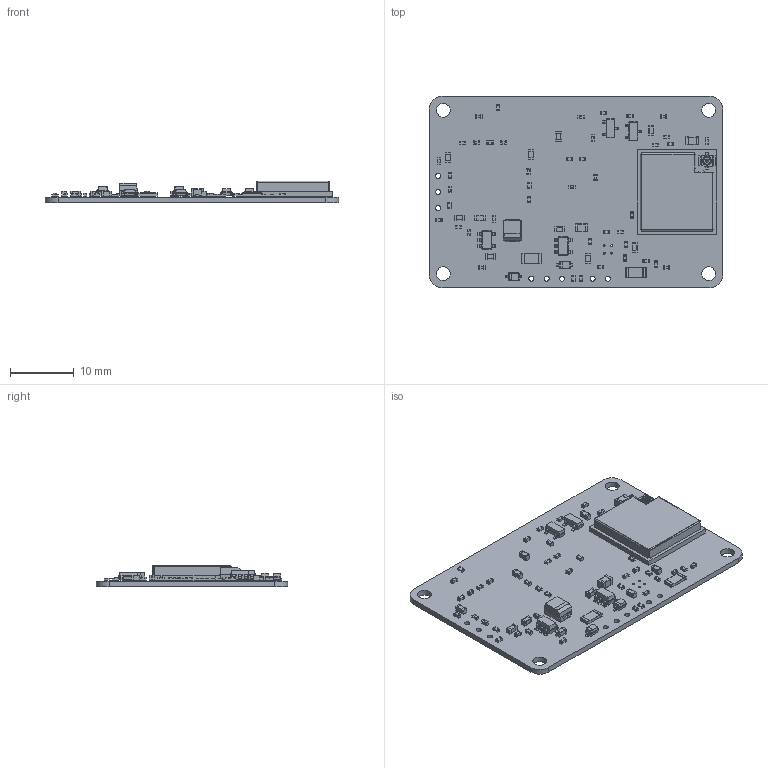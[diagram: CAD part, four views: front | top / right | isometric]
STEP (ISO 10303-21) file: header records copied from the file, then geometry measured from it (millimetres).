
FILE_DESCRIPTION(('KiCad electronic assembly'),'2;1');
FILE_NAME('AVO_GIRTH_REVD_PCB_FINAL_STEP.step','2026-11-15T17:01:18',( 'Pcbnew'),('Kicad'),'Open CASCADE STEP processor 7.6', 'KiCad to STEP converter','Unknown');
FILE_SCHEMA(('AUTOMOTIVE_DESIGN { 1 0 10303 214 1 1 1 1 }'));
Length unit declared in the file: millimetre
Products named in the file (45): AVO_GIRTH_REVD_PCB_FINAL_STEP 1; C_0402_1005Metric; Fuse_1206_3216Metric; C_0603_1608Metric; CP_EIA-3528-21_Kemet-B; R_0402_1005Metric; SOT-23-5; SOT-23; D_SOD-323; C_0805_2012Metric; ESP32-C6-MINI-1U; ESP32-C6-MINI-1U-body; DesignRootModel; uid__2428; Submodel-IPEX_4P_part_IPEX_4P; Submodel-D__3D_design_ESP32-C6_module_module_ESP32-C6-MINI-1U-3D_PCB_
ESP32-C6-MINI-1U_V1.1_20230317_PCB_3D_ImportedPartModels_ipx3.STEP; ipx3.xtd; Submodel-R0201_part_R0201; Submodel-D__3D_design_ESP32-C6_module_module_ESP32-C6-MINI-1U-3D_PCB_
ESP32-C6-MINI-1U_V1.1_20230317_PCB_3D_ImportedPartModels_R0201_
20210301.STEP; R0201_20210301.xtd; Submodel-L0201_part_L0201; Submodel-D__3D_design_ESP32-C6_module_module_ESP32-C6-MINI-1U-3D_PCB_
ESP32-C6-MINI-1U_V1.1_20230317_PCB_3D_ImportedPartModels_L0201_
20210301.STEP; L0201_20210301.xtd; Submodel-C0201_part_C0201; Submodel-D__3D_design_ESP32-C6_module_module_ESP32-C6-MINI-1U-3D_PCB_
ESP32-C6-MINI-1U_V1.1_20230317_PCB_3D_ImportedPartModels_C0201_
20210301.STEP; C0201_20210301.xtd; Submodel-C0402_part_C0402; Submodel-D__3D_design_ESP32-C6_module_module_ESP32-C6-MINI-1U-3D_PCB_
ESP32-C6-MINI-1U_V1.1_20230317_PCB_3D_ImportedPartModels_C0402_
20210301.STEP; C0402_20210301.xtd; Submodel-SOD882_part_SOD882; Submodel-D__3D_design_ESP32-C6_module_module_ESP32-C6-MINI-1U-3D_PCB_
ESP32-C6-MINI-1U_V1.1_20230317_PCB_3D_ImportedPartModels_DFN1006.STEP; DFN1006.xtd; Submodel-XTAL3225_part_XTAL3225; Submodel-D__3D_design_ESP32-C6_module_module_ESP32-C6-MINI-1U-3D_PCB_
ESP32-C6-MINI-1U_V1.1_20230317_PCB_3D_ImportedPartModels_XTAL3225_
20210301.STEP; XTAL3225_20210301.xtd; Submodel-QFN32_0P5_5_E3P7X3P2_part_QFN32_0P5_5_E3P7X3P2; Submodel-D__3D_design_ESP32-C6_module_module_ESP32-C6-MINI-1U-3D_PCB_
ESP32-C6-MINI-1U_V1.1_20230317_PCB_3D_ImportedPartModels_ESP32-C6_QFN32_
5X5_202306.STEP; ESP32-C6_QFN32_5X5_202306.xtd; Submodel-TSSLP-2-1_132530003_part_TSSLP-2-1; Submodel-noModelForPart_TSSLP-2-1_132530003 ...
Assembly tree (111 placements, depth 7):
  AVO_GIRTH_REVD_PCB_FINAL_STEP 1
    C_0402_1005Metric  x21
    Fuse_1206_3216Metric  x2
    C_0603_1608Metric  x10
    CP_EIA-3528-21_Kemet-B
    R_0402_1005Metric  x22
    SOT-23-5  x2
    SOT-23  x2
    D_SOD-323  x2
    C_0805_2012Metric  x2
    ESP32-C6-MINI-1U
      ESP32-C6-MINI-1U-body
        DesignRootModel
          uid__2428
          Submodel-IPEX_4P_part_IPEX_4P
            Submodel-D__3D_design_ESP32-C6_module_module_ESP32-C6-MINI-1U-3D_PCB_
ESP32-C6-MINI-1U_V1.1_20230317_PCB_3D_ImportedPartModels_ipx3.STEP
              ipx3.xtd
          Submodel-R0201_part_R0201  x3
            Submodel-D__3D_design_ESP32-C6_module_module_ESP32-C6-MINI-1U-3D_PCB_
ESP32-C6-MINI-1U_V1.1_20230317_PCB_3D_ImportedPartModels_R0201_
20210301.STEP
              R0201_20210301.xtd
          Submodel-L0201_part_L0201  x2
            Submodel-D__3D_design_ESP32-C6_module_module_ESP32-C6-MINI-1U-3D_PCB_
ESP32-C6-MINI-1U_V1.1_20230317_PCB_3D_ImportedPartModels_L0201_
20210301.STEP
              L0201_20210301.xtd
          Submodel-C0201_part_C0201  x10
            Submodel-D__3D_design_ESP32-C6_module_module_ESP32-C6-MINI-1U-3D_PCB_
ESP32-C6-MINI-1U_V1.1_20230317_PCB_3D_ImportedPartModels_C0201_
20210301.STEP
              C0201_20210301.xtd
          Submodel-C0402_part_C0402
            Submodel-D__3D_design_ESP32-C6_module_module_ESP32-C6-MINI-1U-3D_PCB_
ESP32-C6-MINI-1U_V1.1_20230317_PCB_3D_ImportedPartModels_C0402_
20210301.STEP
              C0402_20210301.xtd
          Submodel-SOD882_part_SOD882
            Submodel-D__3D_design_ESP32-C6_module_module_ESP32-C6-MINI-1U-3D_PCB_
ESP32-C6-MINI-1U_V1.1_20230317_PCB_3D_ImportedPartModels_DFN1006.STEP
              DFN1006.xtd
          Submodel-XTAL3225_part_XTAL3225
            Submodel-D__3D_design_ESP32-C6_module_module_ESP32-C6-MINI-1U-3D_PCB_
ESP32-C6-MINI-1U_V1.1_20230317_PCB_3D_ImportedPartModels_XTAL3225_
20210301.STEP
              XTAL3225_20210301.xtd
          Submodel-QFN32_0P5_5_E3P7X3P2_part_QFN32_0P5_5_E3P7X3P2
            Submodel-D__3D_design_ESP32-C6_module_module_ESP32-C6-MINI-1U-3D_PCB_
ESP32-C6-MINI-1U_V1.1_20230317_PCB_3D_ImportedPartModels_ESP32-C6_QFN32_
5X5_202306.STEP
              ESP32-C6_QFN32_5X5_202306.xtd
          Submodel-TSSLP-2-1_132530003_part_TSSLP-2-1
            Submodel-noModelForPart_TSSLP-2-1_132530003
              placementOutline
        Imported
        C3-MINI-solder_pad
      ShieldBox_ESP32-C3-MINI-1U_V1.0_20201210
    AVO_GIRTH_REVD_PCB_PCB
Bounding box: 46 x 30 x 3.4 mm (x, y, z)
Volume: 1502.8 mm3; surface area: 4341.1 mm2
Topology: 245 solids, 246 shells, 4565 faces, 11258 edges, 7203 vertices
Faces by surface type: plane 2845, cylinder 1362, bspline 349, cone 9
Full cylindrical faces by diameter (mm): 0.3 x4, 0.8 x8, 2.2 x4
Entity records: 75173 total; most frequent: CARTESIAN_POINT 19249, ORIENTED_EDGE 11514, DIRECTION 10777, EDGE_CURVE 5757, LINE 4069, VECTOR 4069, VERTEX_POINT 3755, AXIS2_PLACEMENT_3D 3354
